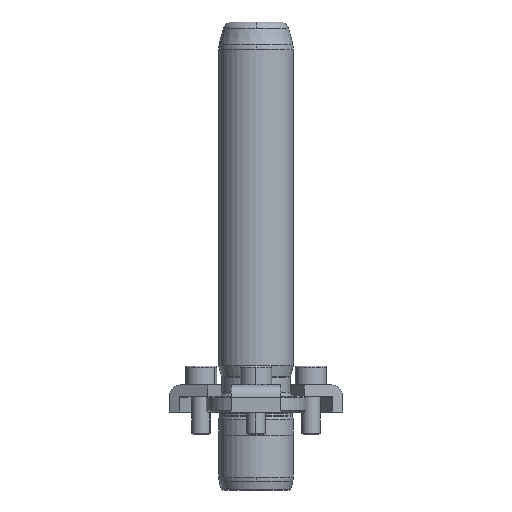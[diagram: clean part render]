
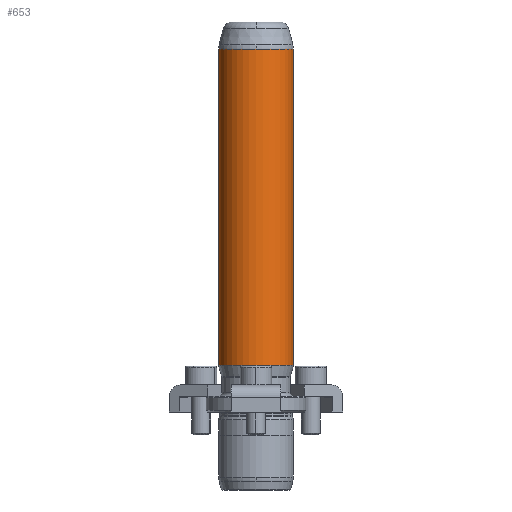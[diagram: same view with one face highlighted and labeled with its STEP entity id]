
A CAD part, front view. The second image highlights one B-rep face of the part: STEP entity #653.
In plain terms, the highlighted cylindrical face has radius 12 mm (diameter 24 mm), a partial arc.
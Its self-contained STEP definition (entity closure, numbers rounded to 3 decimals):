
#566=CARTESIAN_POINT('',(0.0,-12.,116.342));
#567=VERTEX_POINT('',#566);
#594=CARTESIAN_POINT('',(-12.0,0.,116.342));
#595=VERTEX_POINT('',#594);
#603=CARTESIAN_POINT('',(0.0,0.,116.342));
#604=DIRECTION('',(0.0,0.0,1.0));
#605=DIRECTION('',(1.0,0.0,0.0));
#606=AXIS2_PLACEMENT_3D('',#603,#604,#605);
#607=CIRCLE('',#606,12.0);
#608=EDGE_CURVE('',#595,#567,#607,.T.);
#613=CARTESIAN_POINT('',(0.0,0.,65.671));
#614=DIRECTION('',(0.0,0.,1.0));
#615=DIRECTION('',(1.0,0.0,0.0));
#616=AXIS2_PLACEMENT_3D('',#613,#614,#615);
#617=CYLINDRICAL_SURFACE('',#616,12.0);
#618=CARTESIAN_POINT('',(12.0,0.,116.342));
#619=VERTEX_POINT('',#618);
#620=CARTESIAN_POINT('',(12.0,0.,15.0));
#621=VERTEX_POINT('',#620);
#622=CARTESIAN_POINT('',(12.0,0.,116.342));
#623=DIRECTION('',(0.0,0.0,-1.0));
#624=VECTOR('',#623,101.342);
#625=LINE('',#622,#624);
#626=EDGE_CURVE('',#619,#621,#625,.T.);
#627=ORIENTED_EDGE('',*,*,#626,.F.);
#628=CARTESIAN_POINT('',(0.0,0.,116.342));
#629=DIRECTION('',(0.0,0.0,1.0));
#630=DIRECTION('',(1.0,0.0,0.0));
#631=AXIS2_PLACEMENT_3D('',#628,#629,#630);
#632=CIRCLE('',#631,12.0);
#633=EDGE_CURVE('',#567,#619,#632,.T.);
#634=ORIENTED_EDGE('',*,*,#633,.F.);
#635=ORIENTED_EDGE('',*,*,#608,.F.);
#636=CARTESIAN_POINT('',(-12.,0.,15.0));
#637=VERTEX_POINT('',#636);
#638=CARTESIAN_POINT('',(-12.0,0.,116.342));
#639=DIRECTION('',(0.0,0.0,-1.0));
#640=VECTOR('',#639,101.342);
#641=LINE('',#638,#640);
#642=EDGE_CURVE('',#595,#637,#641,.T.);
#643=ORIENTED_EDGE('',*,*,#642,.T.);
#644=CARTESIAN_POINT('',(0.0,0.,15.0));
#645=DIRECTION('',(0.0,0.0,1.0));
#646=DIRECTION('',(1.0,0.0,0.0));
#647=AXIS2_PLACEMENT_3D('',#644,#645,#646);
#648=CIRCLE('',#647,12.0);
#649=EDGE_CURVE('',#637,#621,#648,.T.);
#650=ORIENTED_EDGE('',*,*,#649,.T.);
#651=EDGE_LOOP('',(#627,#634,#635,#643,#650));
#652=FACE_OUTER_BOUND('',#651,.T.);
#653=ADVANCED_FACE('',(#652),#617,.T.);
